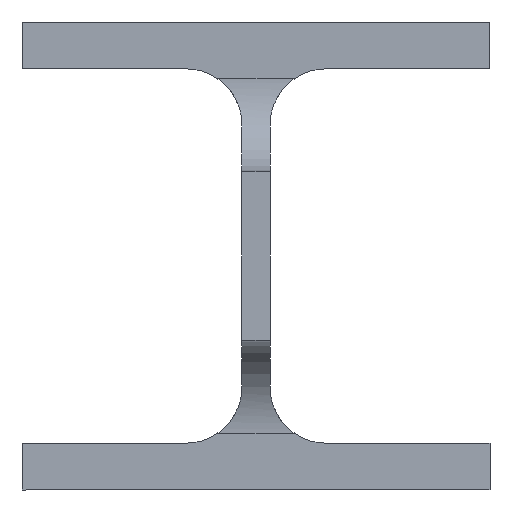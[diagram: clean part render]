
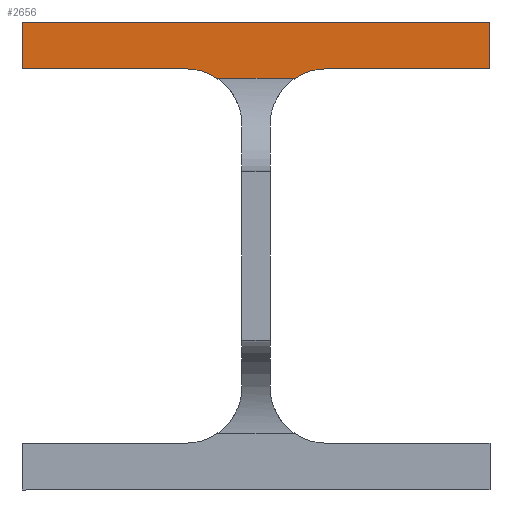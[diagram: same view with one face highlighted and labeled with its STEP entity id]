
A CAD part, front view. The second image highlights one B-rep face of the part: STEP entity #2656.
In plain terms, the highlighted planar face has unit normal (0, -1, 0).
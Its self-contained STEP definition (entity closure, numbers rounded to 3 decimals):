
#23 = EDGE_CURVE ( 'NONE', #2602, #2403, #1156, .T. ) ;
#56 = DIRECTION ( 'NONE',  ( 0., 0., -1. ) ) ;
#72 = LINE ( 'NONE', #1489, #1574 ) ;
#106 = VERTEX_POINT ( 'NONE', #1557 ) ;
#177 = VERTEX_POINT ( 'NONE', #578 ) ;
#371 = LINE ( 'NONE', #2991, #1935 ) ;
#430 = EDGE_CURVE ( 'NONE', #106, #177, #3103, .T. ) ;
#468 = DIRECTION ( 'NONE',  ( 0., 0., -1. ) ) ;
#477 = EDGE_LOOP ( 'NONE', ( #1389, #1591, #2694, #2316, #1116, #859, #1107, #888 ) ) ;
#494 = DIRECTION ( 'NONE',  ( 0., 0., -1. ) ) ;
#547 = EDGE_CURVE ( 'NONE', #177, #2297, #72, .T. ) ;
#561 = VECTOR ( 'NONE', #1078, 1000. ) ;
#578 = CARTESIAN_POINT ( 'NONE',  ( 6950., 1952., 4180. ) ) ;
#621 = EDGE_CURVE ( 'NONE', #2297, #2602, #2469, .T. ) ;
#652 = CARTESIAN_POINT ( 'NONE',  ( 7008.367, 1952., 4168. ) ) ;
#724 = CARTESIAN_POINT ( 'NONE',  ( 7050., 1952., 4170. ) ) ;
#859 = ORIENTED_EDGE ( 'NONE', *, *, #621, .T. ) ;
#870 = VECTOR ( 'NONE', #1471, 1000. ) ;
#888 = ORIENTED_EDGE ( 'NONE', *, *, #2315, .F. ) ;
#961 = VERTEX_POINT ( 'NONE', #652 ) ;
#972 = CARTESIAN_POINT ( 'NONE',  ( 6985., 1952., 4158. ) ) ;
#1078 = DIRECTION ( 'NONE',  ( 1., 0., 0. ) ) ;
#1107 = ORIENTED_EDGE ( 'NONE', *, *, #23, .T. ) ;
#1116 = ORIENTED_EDGE ( 'NONE', *, *, #547, .T. ) ;
#1125 = CARTESIAN_POINT ( 'NONE',  ( 7050., 1952., 4170. ) ) ;
#1156 = CIRCLE ( 'NONE', #2588, 12. ) ;
#1163 = AXIS2_PLACEMENT_3D ( 'NONE', #2192, #1944, #2641 ) ;
#1232 = LINE ( 'NONE', #2877, #1319 ) ;
#1319 = VECTOR ( 'NONE', #2141, 1000. ) ;
#1389 = ORIENTED_EDGE ( 'NONE', *, *, #1672, .T. ) ;
#1457 = CARTESIAN_POINT ( 'NONE',  ( 6991.633, 1952., 4168. ) ) ;
#1471 = DIRECTION ( 'NONE',  ( 1., 0., 0. ) ) ;
#1489 = CARTESIAN_POINT ( 'NONE',  ( 6950., 1952., 4170. ) ) ;
#1557 = CARTESIAN_POINT ( 'NONE',  ( 7050., 1952., 4180. ) ) ;
#1574 = VECTOR ( 'NONE', #56, 1000. ) ;
#1591 = ORIENTED_EDGE ( 'NONE', *, *, #1715, .T. ) ;
#1672 = EDGE_CURVE ( 'NONE', #961, #2729, #2539, .T. ) ;
#1715 = EDGE_CURVE ( 'NONE', #2729, #2384, #2668, .T. ) ;
#1730 = CARTESIAN_POINT ( 'NONE',  ( 6950., 1952., 4170. ) ) ;
#1887 = DIRECTION ( 'NONE',  ( -1., 0., 0. ) ) ;
#1923 = DIRECTION ( 'NONE',  ( 0., 1., 0. ) ) ;
#1935 = VECTOR ( 'NONE', #2796, 1000. ) ;
#1941 = CARTESIAN_POINT ( 'NONE',  ( 7015., 1952., 4170. ) ) ;
#1944 = DIRECTION ( 'NONE',  ( 0., 1., 0. ) ) ;
#1990 = CARTESIAN_POINT ( 'NONE',  ( 9000., 1952., 4180. ) ) ;
#2113 = CARTESIAN_POINT ( 'NONE',  ( 6985., 1952., 4170. ) ) ;
#2141 = DIRECTION ( 'NONE',  ( -1., 0., 0. ) ) ;
#2187 = FACE_OUTER_BOUND ( 'NONE', #477, .T. ) ;
#2192 = CARTESIAN_POINT ( 'NONE',  ( 7015., 1952., 4158. ) ) ;
#2297 = VERTEX_POINT ( 'NONE', #1730 ) ;
#2315 = EDGE_CURVE ( 'NONE', #961, #2403, #1232, .T. ) ;
#2316 = ORIENTED_EDGE ( 'NONE', *, *, #430, .T. ) ;
#2383 = AXIS2_PLACEMENT_3D ( 'NONE', #1990, #3108, #494 ) ;
#2384 = VERTEX_POINT ( 'NONE', #1125 ) ;
#2403 = VERTEX_POINT ( 'NONE', #1457 ) ;
#2406 = CARTESIAN_POINT ( 'NONE',  ( 6985., 1952., 4170. ) ) ;
#2434 = VECTOR ( 'NONE', #1887, 1000. ) ;
#2469 = LINE ( 'NONE', #2113, #561 ) ;
#2490 = PLANE ( 'NONE',  #2383 ) ;
#2539 = CIRCLE ( 'NONE', #1163, 12. ) ;
#2588 = AXIS2_PLACEMENT_3D ( 'NONE', #972, #1923, #468 ) ;
#2602 = VERTEX_POINT ( 'NONE', #2406 ) ;
#2641 = DIRECTION ( 'NONE',  ( 0., 0., -1. ) ) ;
#2656 = ADVANCED_FACE ( 'NONE', ( #2187 ), #2490, .T. ) ;
#2668 = LINE ( 'NONE', #724, #870 ) ;
#2694 = ORIENTED_EDGE ( 'NONE', *, *, #3126, .T. ) ;
#2729 = VERTEX_POINT ( 'NONE', #1941 ) ;
#2788 = CARTESIAN_POINT ( 'NONE',  ( 6950., 1952., 4180. ) ) ;
#2796 = DIRECTION ( 'NONE',  ( 0., 0., 1. ) ) ;
#2877 = CARTESIAN_POINT ( 'NONE',  ( 9000., 1952., 4168. ) ) ;
#2991 = CARTESIAN_POINT ( 'NONE',  ( 7050., 1952., 4180. ) ) ;
#3103 = LINE ( 'NONE', #2788, #2434 ) ;
#3108 = DIRECTION ( 'NONE',  ( 0., -1., 0. ) ) ;
#3126 = EDGE_CURVE ( 'NONE', #2384, #106, #371, .T. ) ;
